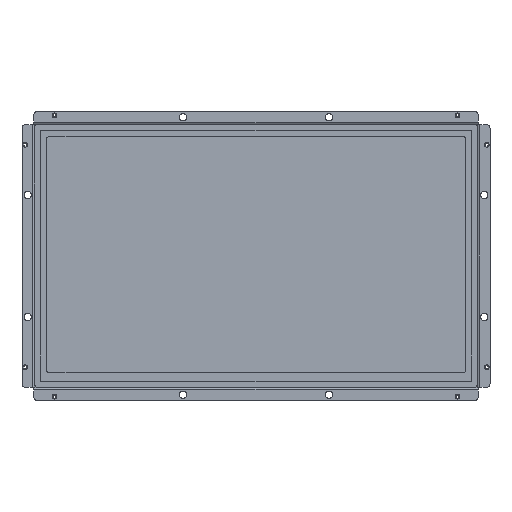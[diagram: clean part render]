
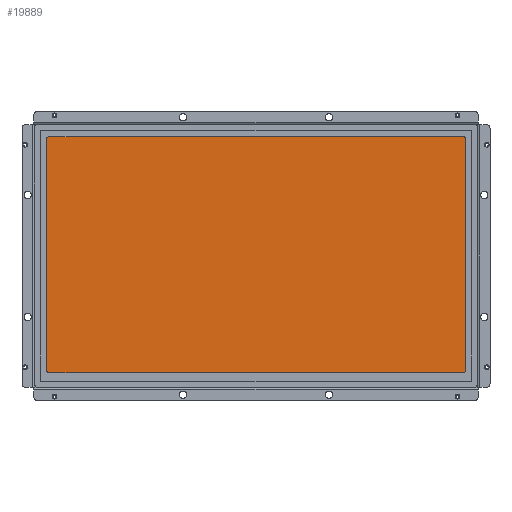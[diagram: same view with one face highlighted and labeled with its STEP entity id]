
A CAD part, front view. The second image highlights one B-rep face of the part: STEP entity #19889.
In plain terms, the highlighted planar face has unit normal (0, -1, 0) as drawn and (0, 0, 1) by its records, which use the part's own axes.
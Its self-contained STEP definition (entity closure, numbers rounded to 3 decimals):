
#1531=CIRCLE('',#21282,2.);
#1532=CIRCLE('',#21283,2.);
#1533=CIRCLE('',#21284,2.);
#1534=CIRCLE('',#21285,2.);
#2139=FACE_OUTER_BOUND('',#3251,.T.);
#3251=EDGE_LOOP('',(#13616,#13617,#13618,#13619,#13620,#13621,#13622,#13623));
#4611=LINE('',#28251,#6629);
#4612=LINE('',#28255,#6630);
#4613=LINE('',#28259,#6631);
#4614=LINE('',#28262,#6632);
#6629=VECTOR('',#23017,10.);
#6630=VECTOR('',#23020,10.);
#6631=VECTOR('',#23023,10.);
#6632=VECTOR('',#23026,10.);
#8643=VERTEX_POINT('',#28247);
#8644=VERTEX_POINT('',#28248);
#8645=VERTEX_POINT('',#28250);
#8646=VERTEX_POINT('',#28252);
#8647=VERTEX_POINT('',#28254);
#8648=VERTEX_POINT('',#28256);
#8649=VERTEX_POINT('',#28258);
#8650=VERTEX_POINT('',#28260);
#10559=EDGE_CURVE('',#8643,#8644,#1531,.T.);
#10560=EDGE_CURVE('',#8645,#8643,#4611,.T.);
#10561=EDGE_CURVE('',#8646,#8645,#1532,.T.);
#10562=EDGE_CURVE('',#8647,#8646,#4612,.T.);
#10563=EDGE_CURVE('',#8648,#8647,#1533,.T.);
#10564=EDGE_CURVE('',#8649,#8648,#4613,.T.);
#10565=EDGE_CURVE('',#8650,#8649,#1534,.T.);
#10566=EDGE_CURVE('',#8644,#8650,#4614,.T.);
#13616=ORIENTED_EDGE('',*,*,#10559,.T.);
#13617=ORIENTED_EDGE('',*,*,#10566,.T.);
#13618=ORIENTED_EDGE('',*,*,#10565,.T.);
#13619=ORIENTED_EDGE('',*,*,#10564,.T.);
#13620=ORIENTED_EDGE('',*,*,#10563,.T.);
#13621=ORIENTED_EDGE('',*,*,#10562,.T.);
#13622=ORIENTED_EDGE('',*,*,#10561,.T.);
#13623=ORIENTED_EDGE('',*,*,#10560,.T.);
#19185=PLANE('',#21304);
#19889=ADVANCED_FACE('',(#2139),#19185,.T.);
#21282=AXIS2_PLACEMENT_3D('',#28249,#23015,#23016);
#21283=AXIS2_PLACEMENT_3D('',#28253,#23018,#23019);
#21284=AXIS2_PLACEMENT_3D('',#28257,#23021,#23022);
#21285=AXIS2_PLACEMENT_3D('',#28261,#23024,#23025);
#21304=AXIS2_PLACEMENT_3D('',#28313,#23083,#23084);
#23015=DIRECTION('center_axis',(0.,0.,1.));
#23016=DIRECTION('ref_axis',(-1.,0.,0.));
#23017=DIRECTION('',(0.,1.,0.));
#23018=DIRECTION('center_axis',(0.,0.,1.));
#23019=DIRECTION('ref_axis',(0.,1.,0.));
#23020=DIRECTION('',(1.,0.,0.));
#23021=DIRECTION('center_axis',(0.,0.,1.));
#23022=DIRECTION('ref_axis',(1.,0.,0.));
#23023=DIRECTION('',(0.,-1.,0.));
#23024=DIRECTION('center_axis',(0.,0.,1.));
#23025=DIRECTION('ref_axis',(0.,-1.,0.));
#23026=DIRECTION('',(-1.,0.,0.));
#23083=DIRECTION('center_axis',(0.,0.,1.));
#23084=DIRECTION('ref_axis',(1.,0.,0.));
#28247=CARTESIAN_POINT('',(172.08,94.135,9.8));
#28248=CARTESIAN_POINT('',(170.08,96.135,9.8));
#28249=CARTESIAN_POINT('Origin',(170.08,94.135,9.8));
#28250=CARTESIAN_POINT('',(172.08,-95.755,9.8));
#28251=CARTESIAN_POINT('',(172.08,-47.878,9.8));
#28252=CARTESIAN_POINT('',(170.08,-97.755,9.8));
#28253=CARTESIAN_POINT('Origin',(170.08,-95.755,9.8));
#28254=CARTESIAN_POINT('',(-170.38,-97.755,9.8));
#28255=CARTESIAN_POINT('',(-85.19,-97.755,9.8));
#28256=CARTESIAN_POINT('',(-172.38,-95.755,9.8));
#28257=CARTESIAN_POINT('Origin',(-170.38,-95.755,9.8));
#28258=CARTESIAN_POINT('',(-172.38,94.135,9.8));
#28259=CARTESIAN_POINT('',(-172.38,47.068,9.8));
#28260=CARTESIAN_POINT('',(-170.38,96.135,9.8));
#28261=CARTESIAN_POINT('Origin',(-170.38,94.135,9.8));
#28262=CARTESIAN_POINT('',(85.04,96.135,9.8));
#28313=CARTESIAN_POINT('Origin',(0.,0.,9.8));
